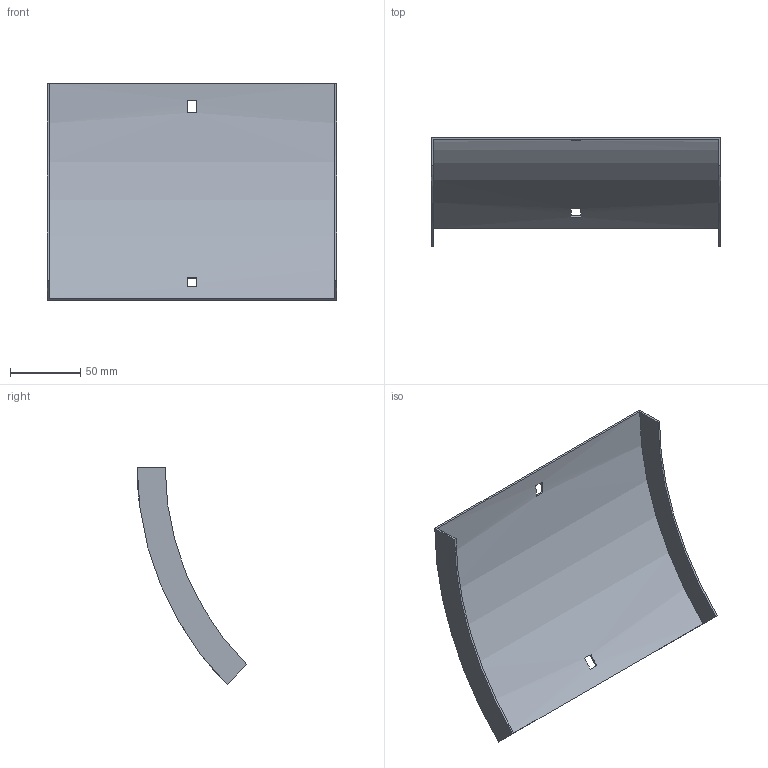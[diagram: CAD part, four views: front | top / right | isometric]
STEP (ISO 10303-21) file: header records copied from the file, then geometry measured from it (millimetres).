
FILE_DESCRIPTION (( 'STEP AP214' ), '1' );
FILE_NAME ('34N1J200.step', '2025-02-21T09:14:21', ( '' ), ( '' ), 'SwSTEP 2.0', 'SolidWorks 2023', '' );
FILE_SCHEMA (( 'AUTOMOTIVE_DESIGN' ));
Length unit declared in the file: millimetre
Products named in the file (1): 34N1J200
Bounding box: 207 x 78.29 x 154.86 mm (x, y, z)
Volume: 62125.3 mm3; surface area: 84129.7 mm2
Topology: 1 solids, 1 shells, 18 faces, 48 edges, 32 vertices
Faces by surface type: plane 14, cylinder 4
Entity records: 599 total; most frequent: DIRECTION 102, CARTESIAN_POINT 99, ORIENTED_EDGE 96, EDGE_CURVE 48, AXIS2_PLACEMENT_3D 35, VECTOR 32, VERTEX_POINT 32, LINE 32
